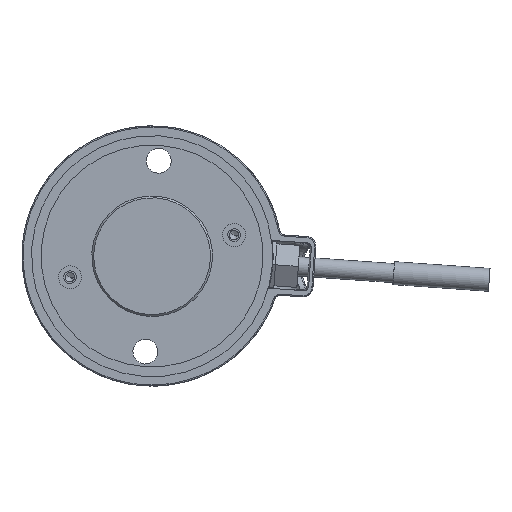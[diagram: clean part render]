
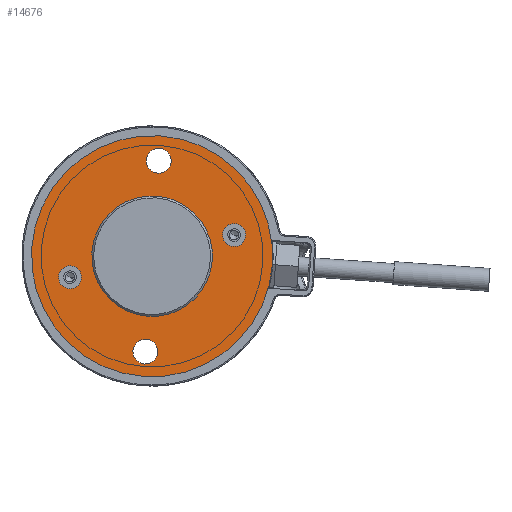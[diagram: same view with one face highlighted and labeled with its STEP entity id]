
A CAD part, left-side view. The second image highlights one B-rep face of the part: STEP entity #14676.
In plain terms, the highlighted planar face has unit normal (-1, 0, 0) as drawn and (1, 0, 0) by its records, which use the part's own axes.
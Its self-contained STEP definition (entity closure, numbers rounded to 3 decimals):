
#14281=CARTESIAN_POINT('Axis2P3D Location',(5.7,0.,0.)) ;
#14285=CARTESIAN_POINT('Vertex',(5.7,-31.5,0.)) ;
#14287=CARTESIAN_POINT('Vertex',(5.7,31.5,0.)) ;
#14316=CARTESIAN_POINT('Axis2P3D Location',(5.7,0.,0.)) ;
#14387=CARTESIAN_POINT('Vertex',(5.7,3.25,-25.)) ;
#14401=CARTESIAN_POINT('Vertex',(5.7,-3.25,-25.)) ;
#14404=CARTESIAN_POINT('Axis2P3D Location',(5.7,0.,-25.)) ;
#14421=CARTESIAN_POINT('Axis2P3D Location',(5.7,0.,-25.)) ;
#14444=CARTESIAN_POINT('Vertex',(5.7,3.25,25.)) ;
#14458=CARTESIAN_POINT('Vertex',(5.7,-3.25,25.)) ;
#14461=CARTESIAN_POINT('Axis2P3D Location',(5.7,0.,25.)) ;
#14478=CARTESIAN_POINT('Axis2P3D Location',(5.7,0.,25.)) ;
#14581=CARTESIAN_POINT('Axis2P3D Location',(5.7,-21.,-7.)) ;
#14585=CARTESIAN_POINT('Vertex',(5.7,-18.367,-8.438)) ;
#14587=CARTESIAN_POINT('Vertex',(5.7,-23.633,-5.562)) ;
#14607=CARTESIAN_POINT('Axis2P3D Location',(5.7,-21.,-7.)) ;
#14619=CARTESIAN_POINT('Axis2P3D Location',(5.7,0.,0.)) ;
#14628=CARTESIAN_POINT('Axis2P3D Location',(5.7,21.,7.)) ;
#14632=CARTESIAN_POINT('Vertex',(5.7,18.367,8.438)) ;
#14634=CARTESIAN_POINT('Vertex',(5.7,23.633,5.562)) ;
#14637=CARTESIAN_POINT('Axis2P3D Location',(5.7,21.,7.)) ;
#14650=CARTESIAN_POINT('Axis2P3D Location',(5.7,0.,0.)) ;
#14654=CARTESIAN_POINT('Vertex',(5.7,-15.75,0.)) ;
#14656=CARTESIAN_POINT('Vertex',(5.7,15.75,0.)) ;
#14659=CARTESIAN_POINT('Axis2P3D Location',(5.7,0.,0.)) ;
#14282=DIRECTION('Axis2P3D Direction',(-1.,0.,0.)) ;
#14317=DIRECTION('Axis2P3D Direction',(-1.,0.,0.)) ;
#14405=DIRECTION('Axis2P3D Direction',(-1.,0.,0.)) ;
#14422=DIRECTION('Axis2P3D Direction',(-1.,0.,0.)) ;
#14462=DIRECTION('Axis2P3D Direction',(-1.,0.,0.)) ;
#14479=DIRECTION('Axis2P3D Direction',(-1.,0.,0.)) ;
#14582=DIRECTION('Axis2P3D Direction',(-1.,0.,0.)) ;
#14608=DIRECTION('Axis2P3D Direction',(-1.,0.,0.)) ;
#14620=DIRECTION('Axis2P3D Direction',(-1.,0.,0.)) ;
#14621=DIRECTION('Axis2P3D XDirection',(0.,-1.,0.)) ;
#14629=DIRECTION('Axis2P3D Direction',(-1.,0.,0.)) ;
#14638=DIRECTION('Axis2P3D Direction',(-1.,0.,0.)) ;
#14651=DIRECTION('Axis2P3D Direction',(-1.,0.,0.)) ;
#14660=DIRECTION('Axis2P3D Direction',(-1.,0.,0.)) ;
#14283=AXIS2_PLACEMENT_3D('Circle Axis2P3D',#14281,#14282,$) ;
#14318=AXIS2_PLACEMENT_3D('Circle Axis2P3D',#14316,#14317,$) ;
#14406=AXIS2_PLACEMENT_3D('Circle Axis2P3D',#14404,#14405,$) ;
#14423=AXIS2_PLACEMENT_3D('Circle Axis2P3D',#14421,#14422,$) ;
#14463=AXIS2_PLACEMENT_3D('Circle Axis2P3D',#14461,#14462,$) ;
#14480=AXIS2_PLACEMENT_3D('Circle Axis2P3D',#14478,#14479,$) ;
#14583=AXIS2_PLACEMENT_3D('Circle Axis2P3D',#14581,#14582,$) ;
#14609=AXIS2_PLACEMENT_3D('Circle Axis2P3D',#14607,#14608,$) ;
#14622=AXIS2_PLACEMENT_3D('Plane Axis2P3D',#14619,#14620,#14621) ;
#14630=AXIS2_PLACEMENT_3D('Circle Axis2P3D',#14628,#14629,$) ;
#14639=AXIS2_PLACEMENT_3D('Circle Axis2P3D',#14637,#14638,$) ;
#14652=AXIS2_PLACEMENT_3D('Circle Axis2P3D',#14650,#14651,$) ;
#14661=AXIS2_PLACEMENT_3D('Circle Axis2P3D',#14659,#14660,$) ;
#14625=ORIENTED_EDGE('',*,*,#14320,.F.) ;
#14626=ORIENTED_EDGE('',*,*,#14289,.F.) ;
#14643=ORIENTED_EDGE('',*,*,#14636,.T.) ;
#14644=ORIENTED_EDGE('',*,*,#14641,.T.) ;
#14647=ORIENTED_EDGE('',*,*,#14611,.T.) ;
#14648=ORIENTED_EDGE('',*,*,#14589,.T.) ;
#14665=ORIENTED_EDGE('',*,*,#14658,.F.) ;
#14666=ORIENTED_EDGE('',*,*,#14663,.F.) ;
#14669=ORIENTED_EDGE('',*,*,#14465,.T.) ;
#14670=ORIENTED_EDGE('',*,*,#14482,.T.) ;
#14673=ORIENTED_EDGE('',*,*,#14408,.T.) ;
#14674=ORIENTED_EDGE('',*,*,#14425,.T.) ;
#14645=FACE_BOUND('',#14642,.T.) ;
#14649=FACE_BOUND('',#14646,.T.) ;
#14667=FACE_BOUND('',#14664,.T.) ;
#14671=FACE_BOUND('',#14668,.T.) ;
#14675=FACE_BOUND('',#14672,.T.) ;
#14676=ADVANCED_FACE('\X2\96F64EF651E04F554F53\X0\',(#14627,#14645,#14649,#14667,#14671,#14675),#14623,.F.) ;
#14284=CIRCLE('generated circle',#14283,31.5) ;
#14319=CIRCLE('generated circle',#14318,31.5) ;
#14407=CIRCLE('generated circle',#14406,3.25) ;
#14424=CIRCLE('generated circle',#14423,3.25) ;
#14464=CIRCLE('generated circle',#14463,3.25) ;
#14481=CIRCLE('generated circle',#14480,3.25) ;
#14584=CIRCLE('generated circle',#14583,3.) ;
#14610=CIRCLE('generated circle',#14609,3.) ;
#14631=CIRCLE('generated circle',#14630,3.) ;
#14640=CIRCLE('generated circle',#14639,3.) ;
#14653=CIRCLE('generated circle',#14652,15.75) ;
#14662=CIRCLE('generated circle',#14661,15.75) ;
#14289=EDGE_CURVE('',#14286,#14288,#14284,.T.) ;
#14320=EDGE_CURVE('',#14288,#14286,#14319,.T.) ;
#14408=EDGE_CURVE('',#14388,#14402,#14407,.T.) ;
#14425=EDGE_CURVE('',#14402,#14388,#14424,.T.) ;
#14465=EDGE_CURVE('',#14445,#14459,#14464,.T.) ;
#14482=EDGE_CURVE('',#14459,#14445,#14481,.T.) ;
#14589=EDGE_CURVE('',#14586,#14588,#14584,.T.) ;
#14611=EDGE_CURVE('',#14588,#14586,#14610,.T.) ;
#14636=EDGE_CURVE('',#14633,#14635,#14631,.T.) ;
#14641=EDGE_CURVE('',#14635,#14633,#14640,.T.) ;
#14658=EDGE_CURVE('',#14655,#14657,#14653,.F.) ;
#14663=EDGE_CURVE('',#14657,#14655,#14662,.F.) ;
#14624=EDGE_LOOP('',(#14625,#14626)) ;
#14642=EDGE_LOOP('',(#14643,#14644)) ;
#14646=EDGE_LOOP('',(#14647,#14648)) ;
#14664=EDGE_LOOP('',(#14665,#14666)) ;
#14668=EDGE_LOOP('',(#14669,#14670)) ;
#14672=EDGE_LOOP('',(#14673,#14674)) ;
#14627=FACE_OUTER_BOUND('',#14624,.T.) ;
#14623=PLANE('Plane',#14622) ;
#14286=VERTEX_POINT('',#14285) ;
#14288=VERTEX_POINT('',#14287) ;
#14388=VERTEX_POINT('',#14387) ;
#14402=VERTEX_POINT('',#14401) ;
#14445=VERTEX_POINT('',#14444) ;
#14459=VERTEX_POINT('',#14458) ;
#14586=VERTEX_POINT('',#14585) ;
#14588=VERTEX_POINT('',#14587) ;
#14633=VERTEX_POINT('',#14632) ;
#14635=VERTEX_POINT('',#14634) ;
#14655=VERTEX_POINT('',#14654) ;
#14657=VERTEX_POINT('',#14656) ;
